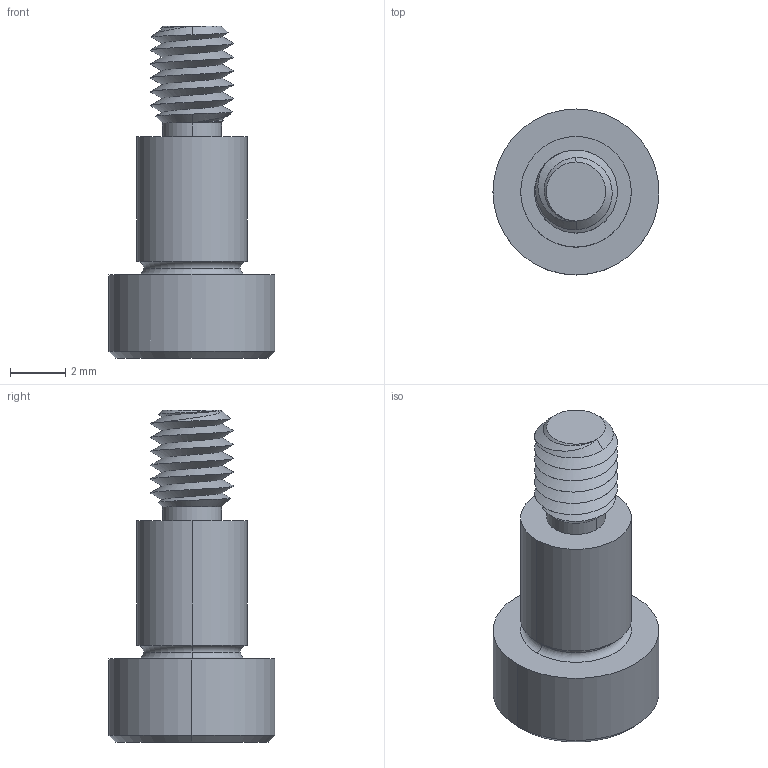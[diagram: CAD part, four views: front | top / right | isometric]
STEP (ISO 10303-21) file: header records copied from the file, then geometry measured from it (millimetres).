
FILE_DESCRIPTION (( 'STEP AP203' ), '1' );
FILE_NAME ('P0130.040-005-B2.step', '2021-11-09T21:01:10', ( '' ), ( '' ), 'SwSTEP 2.0', 'SolidWorks 2019', '' );
FILE_SCHEMA (( 'CONFIG_CONTROL_DESIGN' ));
Length unit declared in the file: millimetre
Products named in the file (1): P0130.040-005-B2
Bounding box: 6 x 6 x 12 mm (x, y, z)
Volume: 158 mm3; surface area: 247.2 mm2
Topology: 1 solids, 1 shells, 54 faces, 124 edges, 73 vertices
Faces by surface type: cylinder 18, plane 16, cone 14, torus 4, bspline 2
Entity records: 2218 total; most frequent: CARTESIAN_POINT 1016, ORIENTED_EDGE 244, DIRECTION 229, EDGE_CURVE 122, AXIS2_PLACEMENT_3D 93, VERTEX_POINT 73, EDGE_LOOP 57, FACE_OUTER_BOUND 54
